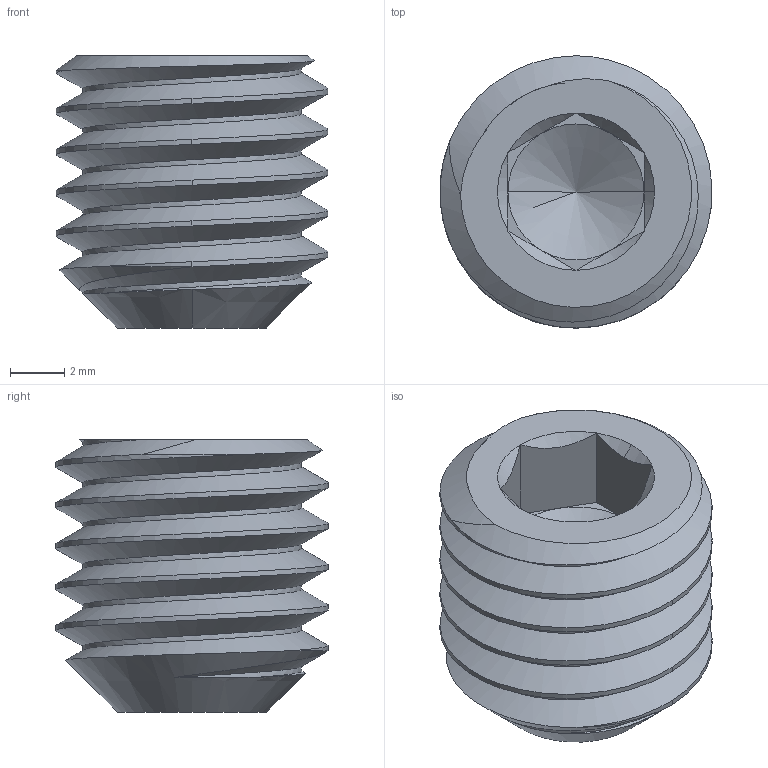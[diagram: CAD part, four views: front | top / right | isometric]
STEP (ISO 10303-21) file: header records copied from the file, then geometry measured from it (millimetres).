
FILE_DESCRIPTION (( 'STEP AP203' ), '1' );
FILE_NAME ('Cup-Point Set Screw 10x10.STEP', '2025-09-25T16:37:05', ( '' ), ( '' ), 'SwSTEP 2.0', 'SolidWorks 2024', '' );
FILE_SCHEMA (( 'CONFIG_CONTROL_DESIGN' ));
Length unit declared in the file: millimetre
Products named in the file (1): Cup-Point Set Screw 10x10
Bounding box: 9.99 x 10 x 10 mm (x, y, z)
Volume: 510.3 mm3; surface area: 603.1 mm2
Topology: 1 solids, 1 shells, 41 faces, 97 edges, 55 vertices
Faces by surface type: cone 14, plane 13, cylinder 11, bspline 3
Entity records: 2378 total; most frequent: CARTESIAN_POINT 1489, ORIENTED_EDGE 186, DIRECTION 149, EDGE_CURVE 93, AXIS2_PLACEMENT_3D 57, VERTEX_POINT 55, EDGE_LOOP 42, FACE_OUTER_BOUND 41
